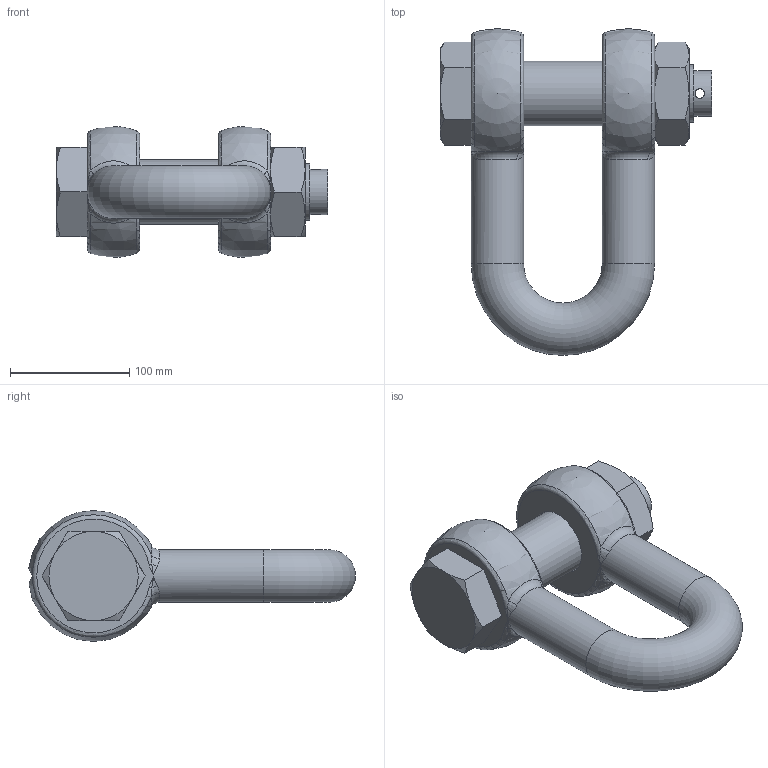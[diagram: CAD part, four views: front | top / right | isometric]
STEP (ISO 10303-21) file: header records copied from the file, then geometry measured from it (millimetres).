
FILE_DESCRIPTION(/* description */ (''),/* implementation_level */ '2;1');
FILE_NAME(/* name */ 'C:\Users\D\Documents\Inventor\HP\吊具\シャックル\SB_2\sb_44.stp',/* time_stamp */ '2024-11-14T11:44:31+09:00',/* author */ ('D'),/* organization */ (''),/* preprocessor_version */ 'ST-DEVELOPER v18',/* originating_system */ 'Autodesk Inventor 2020',/* authorisation */ '');
FILE_SCHEMA (('AUTOMOTIVE_DESIGN { 1 0 10303 214 3 1 1 }'));
Length unit declared in the file: millimetre
Products named in the file (3): sb_44; sb_6; sb_pin_10
Assembly tree (2 placements, depth 2):
  sb_44
    sb_6
    sb_pin_10
Bounding box: 228 x 274.6 x 110 mm (x, y, z)
Volume: 1750349.3 mm3; surface area: 171751.8 mm2
Topology: 2 solids, 2 shells, 85 faces, 219 edges, 121 vertices
Faces by surface type: bspline 24, plane 22, cone 19, cylinder 9, torus 9, sphere 2
Full cylindrical faces by diameter (mm): 8 x1, 38 x1, 44 x2, 48 x2, 54 x1, 56 x2
Entity records: 3260 total; most frequent: CARTESIAN_POINT 1401, ORIENTED_EDGE 398, DIRECTION 339, EDGE_CURVE 199, AXIS2_PLACEMENT_3D 155, VERTEX_POINT 121, EDGE_LOOP 94, CIRCLE 89
